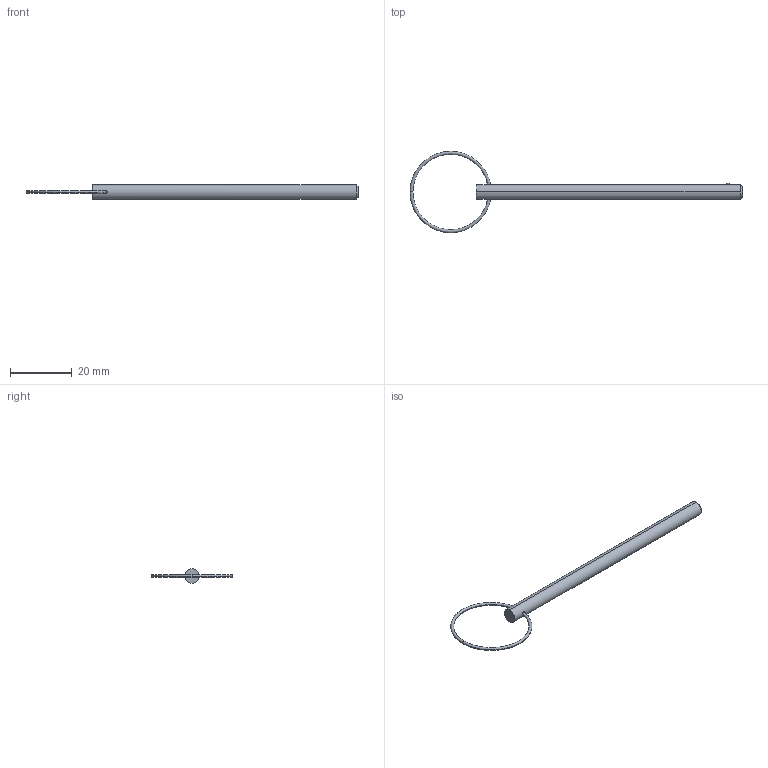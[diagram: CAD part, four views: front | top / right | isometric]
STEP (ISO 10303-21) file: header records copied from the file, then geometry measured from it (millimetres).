
FILE_DESCRIPTION (( 'STEP AP203' ), '1' );
FILE_NAME ('33012.W1830.step', '2024-11-01T14:06:21', ( '' ), ( '' ), 'SwSTEP 2.0', 'SolidWorks 2019', '' );
FILE_SCHEMA (( 'CONFIG_CONTROL_DESIGN' ));
Length unit declared in the file: millimetre
Products named in the file (3): Part1_33012.W1830; 33012.W1830; Part2_33012.W1830
Assembly tree (2 placements, depth 2):
  33012.W1830
    Part1_33012.W1830
    Part2_33012.W1830
Bounding box: 107.54 x 26.35 x 4.76 mm (x, y, z)
Volume: 1580.3 mm3; surface area: 1571.1 mm2
Topology: 2 solids, 2 shells, 16 faces, 31 edges, 18 vertices
Faces by surface type: torus 8, sphere 2, cone 2, cylinder 2, plane 2
Entity records: 779 total; most frequent: CARTESIAN_POINT 136, DIRECTION 88, ORIENTED_EDGE 62, AXIS2_PLACEMENT_3D 42, EDGE_CURVE 31, PERSON_AND_ORGANIZATION 26, CIRCLE 21, LOCAL_TIME 19
